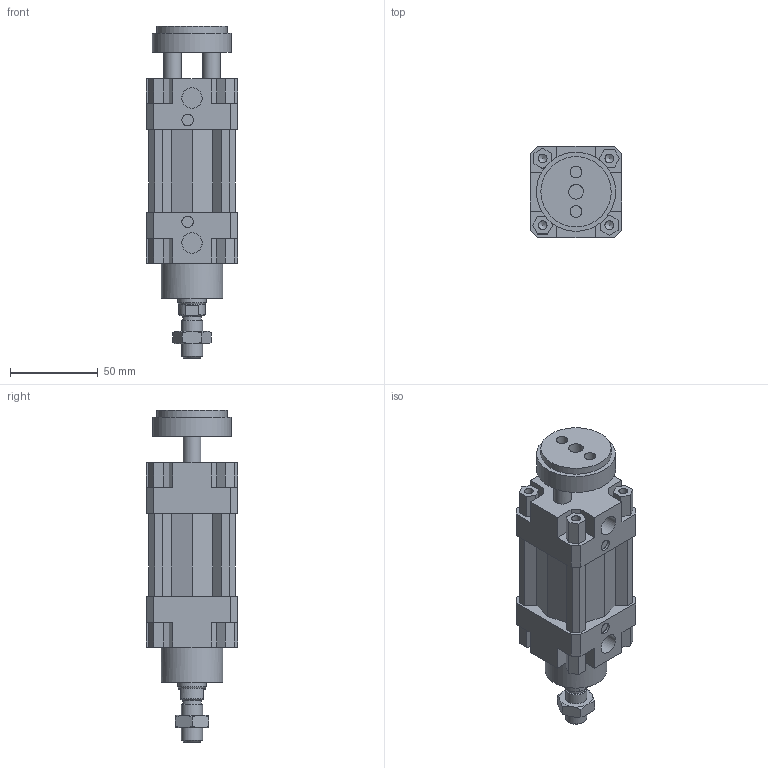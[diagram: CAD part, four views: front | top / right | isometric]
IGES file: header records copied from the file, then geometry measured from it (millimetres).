
Global section: file name: 132#_040_0000_02; native system: Autodesk Inventor 2014; preprocessor: unknown; author: A. Manieri; date: 20161006.154724; units: millimetre
Bounding box: 52 x 52 x 189 mm (x, y, z)
Volume: 276457 mm3; surface area: 70969.7 mm2
Topology: 3 solids, 3 shells, 220 faces, 590 edges, 398 vertices
Faces by surface type: bspline 220
